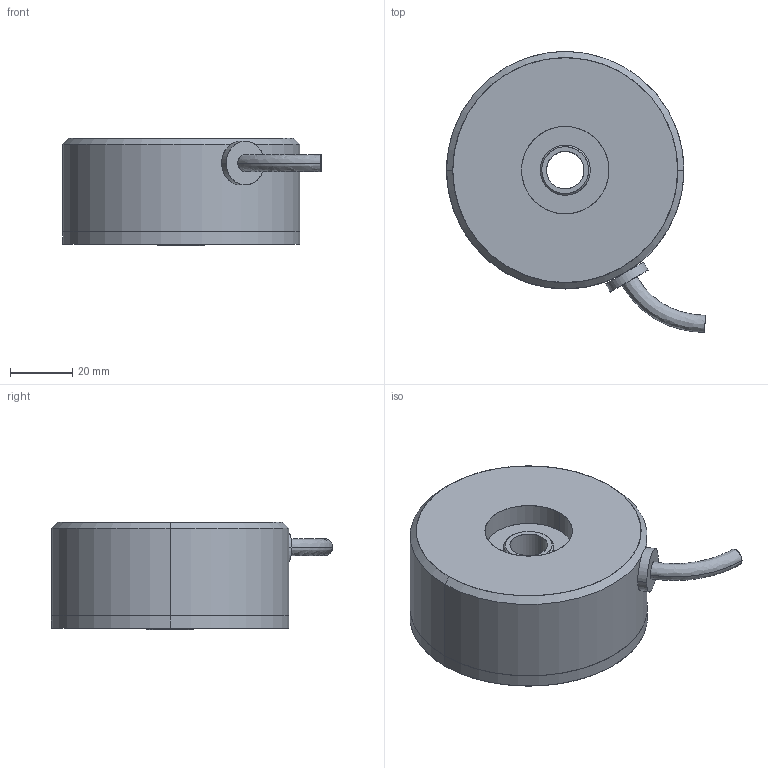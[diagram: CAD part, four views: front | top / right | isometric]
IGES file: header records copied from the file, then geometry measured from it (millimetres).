
Start section: SolidWorks IGES file using analytic representation for surfaces
Bounding box: 82.89 x 89.99 x 34.5 mm (x, y, z)
Surface area: 31051.3 mm2 (no closed solid volume)
Topology: 0 solids, 0 shells, 49 faces, 1264 edges, 1264 vertices
Faces by surface type: revolution 34, bspline 15
